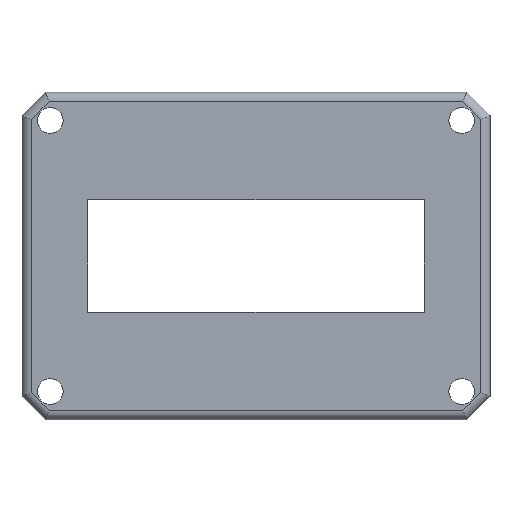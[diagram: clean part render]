
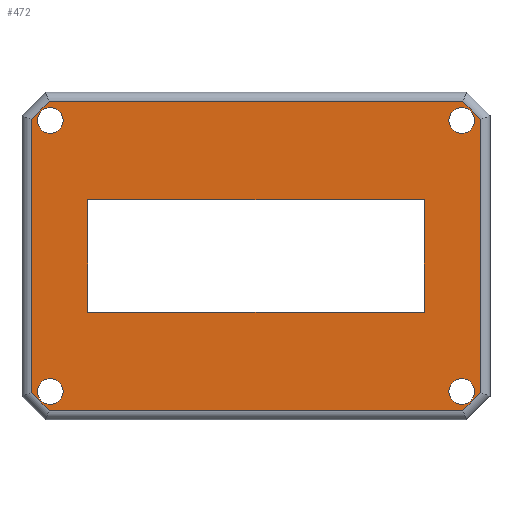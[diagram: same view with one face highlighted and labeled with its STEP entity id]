
A CAD part, top view. The second image highlights one B-rep face of the part: STEP entity #472.
In plain terms, the highlighted planar face has unit normal (0, 0, 1).
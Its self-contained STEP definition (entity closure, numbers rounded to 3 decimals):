
#18=CIRCLE('',#530,2.75);
#19=CIRCLE('',#531,2.75);
#20=CIRCLE('',#532,2.75);
#21=CIRCLE('',#533,2.75);
#26=FACE_BOUND('',#89,.T.);
#27=FACE_BOUND('',#90,.T.);
#28=FACE_BOUND('',#91,.T.);
#29=FACE_BOUND('',#92,.T.);
#30=FACE_BOUND('',#93,.T.);
#40=PLANE('',#529);
#62=FACE_OUTER_BOUND('',#88,.T.);
#88=EDGE_LOOP('',(#368,#369,#370,#371,#372,#373,#374,#375));
#89=EDGE_LOOP('',(#376,#377,#378,#379));
#90=EDGE_LOOP('',(#380));
#91=EDGE_LOOP('',(#381));
#92=EDGE_LOOP('',(#382));
#93=EDGE_LOOP('',(#383));
#120=LINE('',#689,#168);
#122=LINE('',#697,#170);
#124=LINE('',#703,#172);
#126=LINE('',#709,#174);
#128=LINE('',#715,#176);
#131=LINE('',#723,#179);
#133=LINE('',#729,#181);
#135=LINE('',#733,#183);
#145=LINE('',#755,#193);
#146=LINE('',#757,#194);
#147=LINE('',#759,#195);
#148=LINE('',#760,#196);
#168=VECTOR('',#555,10.);
#170=VECTOR('',#563,10.);
#172=VECTOR('',#569,10.);
#174=VECTOR('',#575,10.);
#176=VECTOR('',#581,10.);
#179=VECTOR('',#588,10.);
#181=VECTOR('',#594,10.);
#183=VECTOR('',#600,10.);
#193=VECTOR('',#620,10.);
#194=VECTOR('',#621,10.);
#195=VECTOR('',#622,10.);
#196=VECTOR('',#623,10.);
#216=VERTEX_POINT('',#687);
#217=VERTEX_POINT('',#688);
#220=VERTEX_POINT('',#696);
#222=VERTEX_POINT('',#702);
#224=VERTEX_POINT('',#708);
#226=VERTEX_POINT('',#714);
#229=VERTEX_POINT('',#722);
#231=VERTEX_POINT('',#728);
#237=VERTEX_POINT('',#753);
#238=VERTEX_POINT('',#754);
#239=VERTEX_POINT('',#756);
#240=VERTEX_POINT('',#758);
#241=VERTEX_POINT('',#761);
#242=VERTEX_POINT('',#763);
#243=VERTEX_POINT('',#765);
#244=VERTEX_POINT('',#767);
#256=EDGE_CURVE('',#216,#217,#120,.T.);
#260=EDGE_CURVE('',#217,#220,#122,.T.);
#263=EDGE_CURVE('',#220,#222,#124,.T.);
#266=EDGE_CURVE('',#222,#224,#126,.T.);
#269=EDGE_CURVE('',#224,#226,#128,.T.);
#273=EDGE_CURVE('',#226,#229,#131,.T.);
#276=EDGE_CURVE('',#229,#231,#133,.T.);
#279=EDGE_CURVE('',#231,#216,#135,.T.);
#289=EDGE_CURVE('',#237,#238,#145,.T.);
#290=EDGE_CURVE('',#238,#239,#146,.T.);
#291=EDGE_CURVE('',#239,#240,#147,.T.);
#292=EDGE_CURVE('',#240,#237,#148,.T.);
#293=EDGE_CURVE('',#241,#241,#18,.T.);
#294=EDGE_CURVE('',#242,#242,#19,.T.);
#295=EDGE_CURVE('',#243,#243,#20,.T.);
#296=EDGE_CURVE('',#244,#244,#21,.T.);
#368=ORIENTED_EDGE('',*,*,#256,.F.);
#369=ORIENTED_EDGE('',*,*,#279,.F.);
#370=ORIENTED_EDGE('',*,*,#276,.F.);
#371=ORIENTED_EDGE('',*,*,#273,.F.);
#372=ORIENTED_EDGE('',*,*,#269,.F.);
#373=ORIENTED_EDGE('',*,*,#266,.F.);
#374=ORIENTED_EDGE('',*,*,#263,.F.);
#375=ORIENTED_EDGE('',*,*,#260,.F.);
#376=ORIENTED_EDGE('',*,*,#289,.T.);
#377=ORIENTED_EDGE('',*,*,#290,.T.);
#378=ORIENTED_EDGE('',*,*,#291,.T.);
#379=ORIENTED_EDGE('',*,*,#292,.T.);
#380=ORIENTED_EDGE('',*,*,#293,.T.);
#381=ORIENTED_EDGE('',*,*,#294,.T.);
#382=ORIENTED_EDGE('',*,*,#295,.T.);
#383=ORIENTED_EDGE('',*,*,#296,.T.);
#472=ADVANCED_FACE('',(#62,#26,#27,#28,#29,#30),#40,.T.);
#529=AXIS2_PLACEMENT_3D('',#752,#618,#619);
#530=AXIS2_PLACEMENT_3D('',#762,#624,#625);
#531=AXIS2_PLACEMENT_3D('',#764,#626,#627);
#532=AXIS2_PLACEMENT_3D('',#766,#628,#629);
#533=AXIS2_PLACEMENT_3D('',#768,#630,#631);
#555=DIRECTION('',(-1.,0.,0.));
#563=DIRECTION('',(-0.707,0.707,0.));
#569=DIRECTION('',(0.,1.,0.));
#575=DIRECTION('',(0.707,0.707,0.));
#581=DIRECTION('',(1.,0.,0.));
#588=DIRECTION('',(0.707,-0.707,0.));
#594=DIRECTION('',(0.,-1.,0.));
#600=DIRECTION('',(-0.707,-0.707,0.));
#618=DIRECTION('center_axis',(0.,0.,1.));
#619=DIRECTION('ref_axis',(1.,0.,0.));
#620=DIRECTION('',(1.,0.,0.));
#621=DIRECTION('',(0.,-1.,0.));
#622=DIRECTION('',(-1.,0.,0.));
#623=DIRECTION('',(0.,1.,0.));
#624=DIRECTION('center_axis',(0.,0.,-1.));
#625=DIRECTION('ref_axis',(-1.,0.,0.));
#626=DIRECTION('center_axis',(0.,0.,-1.));
#627=DIRECTION('ref_axis',(1.,0.,0.));
#628=DIRECTION('center_axis',(0.,0.,-1.));
#629=DIRECTION('ref_axis',(-1.,0.,0.));
#630=DIRECTION('center_axis',(0.,0.,-1.));
#631=DIRECTION('ref_axis',(1.,0.,0.));
#687=CARTESIAN_POINT('',(44.172,-33.,3.));
#688=CARTESIAN_POINT('',(-44.172,-33.,3.));
#689=CARTESIAN_POINT('',(-22.5,-33.,3.));
#696=CARTESIAN_POINT('',(-48.,-29.172,3.));
#697=CARTESIAN_POINT('',(-43.586,-33.586,3.));
#702=CARTESIAN_POINT('',(-48.,29.172,3.));
#703=CARTESIAN_POINT('',(-48.,15.,3.));
#708=CARTESIAN_POINT('',(-44.172,33.,3.));
#709=CARTESIAN_POINT('',(-41.086,36.086,3.));
#714=CARTESIAN_POINT('',(44.172,33.,3.));
#715=CARTESIAN_POINT('',(22.5,33.,3.));
#722=CARTESIAN_POINT('',(48.,29.172,3.));
#723=CARTESIAN_POINT('',(43.586,33.586,3.));
#728=CARTESIAN_POINT('',(48.,-29.172,3.));
#729=CARTESIAN_POINT('',(48.,-15.,3.));
#733=CARTESIAN_POINT('',(41.086,-36.086,3.));
#752=CARTESIAN_POINT('Origin',(0.,0.,3.));
#753=CARTESIAN_POINT('',(-36.,12.,3.));
#754=CARTESIAN_POINT('',(36.,12.,3.));
#755=CARTESIAN_POINT('',(-36.,12.,3.));
#756=CARTESIAN_POINT('',(36.,-12.,3.));
#757=CARTESIAN_POINT('',(36.,12.,3.));
#758=CARTESIAN_POINT('',(-36.,-12.,3.));
#759=CARTESIAN_POINT('',(36.,-12.,3.));
#760=CARTESIAN_POINT('',(-36.,-12.,3.));
#761=CARTESIAN_POINT('',(46.714,28.964,3.));
#762=CARTESIAN_POINT('Origin',(43.964,28.964,3.));
#763=CARTESIAN_POINT('',(-46.714,28.964,3.));
#764=CARTESIAN_POINT('Origin',(-43.964,28.964,3.));
#765=CARTESIAN_POINT('',(46.714,-28.964,3.));
#766=CARTESIAN_POINT('Origin',(43.964,-28.964,3.));
#767=CARTESIAN_POINT('',(-46.714,-28.964,3.));
#768=CARTESIAN_POINT('Origin',(-43.964,-28.964,3.));
